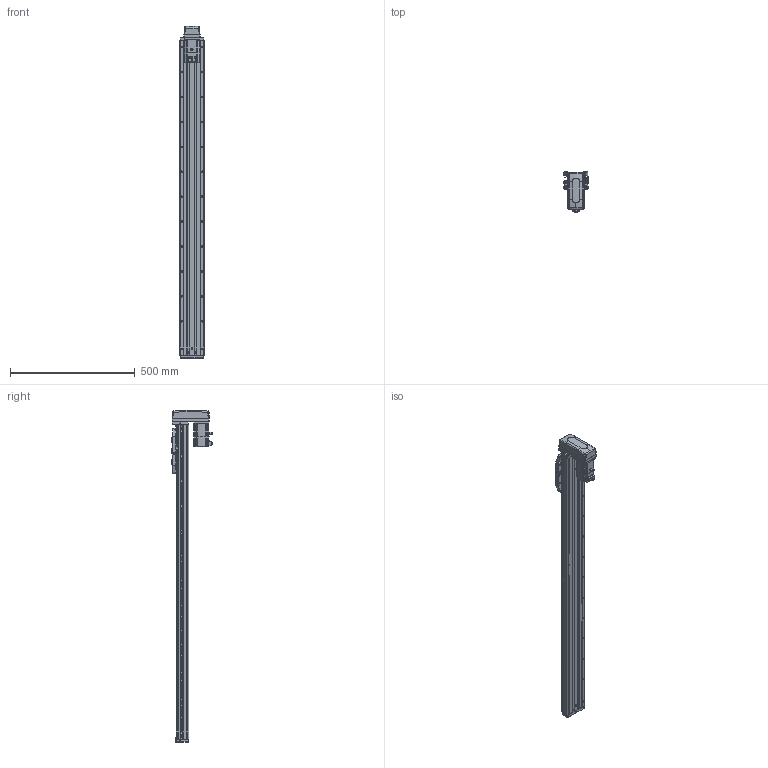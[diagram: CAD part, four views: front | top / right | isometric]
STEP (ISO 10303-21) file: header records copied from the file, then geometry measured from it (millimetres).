
FILE_DESCRIPTION (( 'STEP AP203' ), '1' );
FILE_NAME ('CTHA100-1050-BM-M20-C4L.step', '2022-07-06T09:02:46', ( '微软用户' ), ( '微软中国' ), 'SwSTEP 2.0', 'SolidWorks 2020', '' );
FILE_SCHEMA (( 'CONFIG_CONTROL_DESIGN' ));
Length unit declared in the file: millimetre
Products named in the file (19): CTHA86-033; EE_SX911P_R; _X2_4E0983F1_X0_200W_1; CTHA100-1050-BM-M20-C4L; CTHA60-017; CTHA100-002; CTHA60-021; CTHA100-031; KTHA100-001_1260; GBT77-2000 M3×3; CTHA86-030; KTHA100-004; GBT 70.1-M3℅6; GBT 70.3-M3℅6; KTHA100-005; GBT70.1 M5℅16; CTHA86-015-1_CTHA86-015-2; GB¨uT 70.2-M3¡Á5_M3¡Á6; CTHA60-016
Assembly tree (64 placements, depth 2):
  CTHA100-1050-BM-M20-C4L
    KTHA100-001_1260
    KTHA100-004
    KTHA100-005
    GB¨uT 70.2-M3¡Á5_M3¡Á6  x10
    EE_SX911P_R  x3
    CTHA60-017  x3
    CTHA60-021  x2
    GBT77-2000 M3×3  x6
    GBT 70.1-M3℅6  x10
    GBT70.1 M5℅16  x14
    CTHA60-016  x2
    _X2_4E0983F1_X0_200W_1
    CTHA100-002
    CTHA100-031
    CTHA86-030  x2
    GBT 70.3-M3℅6  x4
    CTHA86-015-1_CTHA86-015-2
    CTHA86-033
Bounding box: 98.82 x 163.2 x 1331 mm (x, y, z)
Volume: 5248116.3 mm3; surface area: 864009.8 mm2
Topology: 66 solids, 66 shells, 2769 faces, 6695 edges, 4156 vertices
Faces by surface type: plane 1452, cylinder 731, cone 363, torus 124, bspline 75, sphere 24
Entity records: 49222 total; most frequent: CARTESIAN_POINT 9595, DIRECTION 7644, ORIENTED_EDGE 7506, EDGE_CURVE 3753, AXIS2_PLACEMENT_3D 2577, VECTOR 2490, LINE 2490, VERTEX_POINT 2376
